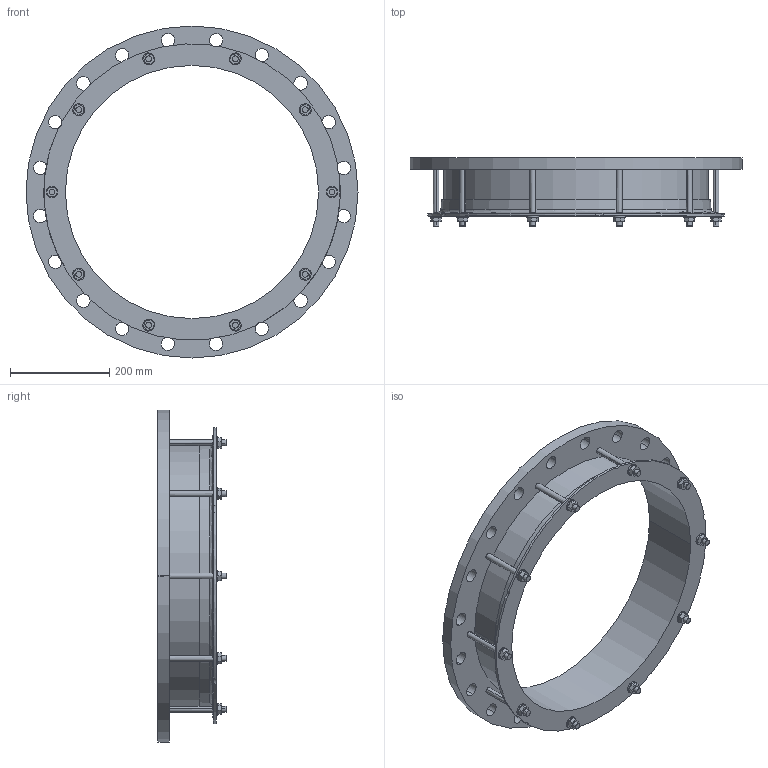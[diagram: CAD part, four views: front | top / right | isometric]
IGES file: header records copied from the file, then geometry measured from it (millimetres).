
Start section:  PTC IGES file: 508x500pn10_5not.igs
Global section: file name: 508x500pn10_5not.igs; native system: Creo Parametric by PTC Inc.; preprocessor: 2016130; author: mfairey; organization: Unknown; date: 20190116.122235; units: millimetre
Bounding box: 670 x 137.45 x 670 mm (x, y, z)
Surface area: 854499.4 mm2 (no closed solid volume)
Topology: 0 solids, 0 shells, 216 faces, 1148 edges, 1148 vertices
Faces by surface type: revolution 122, bspline 94
